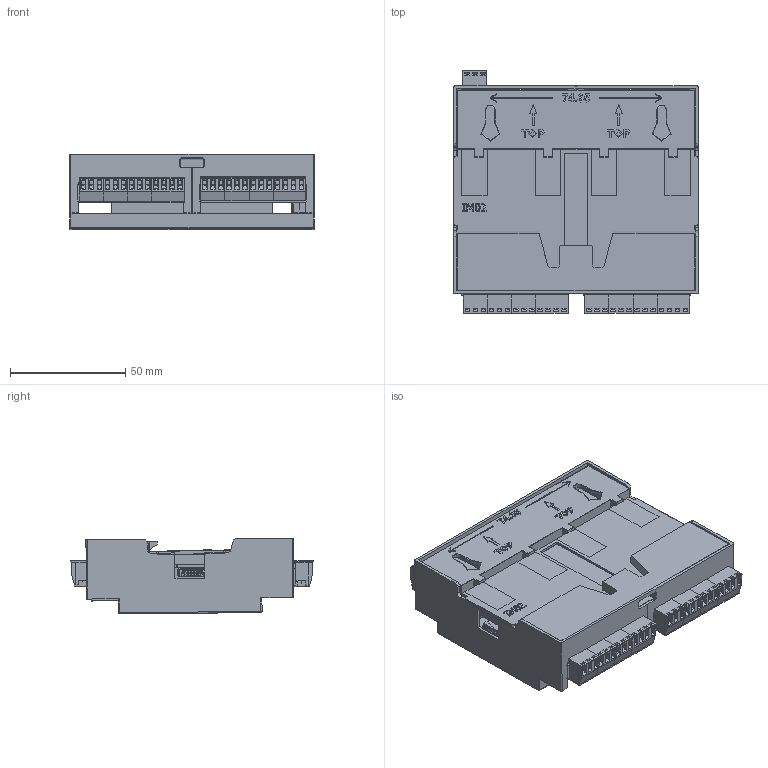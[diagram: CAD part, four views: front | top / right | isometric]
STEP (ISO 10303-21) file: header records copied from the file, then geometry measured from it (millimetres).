
FILE_DESCRIPTION(/* description */ (''),/* implementation_level */ '2;1');
FILE_NAME(/* name */ 'C:\Users\zambolin\Desktop\PRODOTTI\R-PASS\3D\DM00199-0.stp',/* time_stamp */ '2021-12-03T11:12:13+01:00',/* author */ ('zambolin'),/* organization */ (''),/* preprocessor_version */ 'ST-DEVELOPER v18.1',/* originating_system */ 'Autodesk Inventor 2022',/* authorisation */ '');
FILE_SCHEMA (('AUTOMOTIVE_DESIGN { 1 0 10303 214 3 1 1 }'));
Products named in the file (6): 3d; BASE_6M-XT_MODIFICA; CIRCUITO-STAMPATO; coperchio forato; MORSETTO_4VIE; MORSETTO_3VIE
Assembly tree (12 placements, depth 2):
  3d
    BASE_6M-XT_MODIFICA
    CIRCUITO-STAMPATO
    coperchio forato
    MORSETTO_3VIE  x7
    MORSETTO_4VIE  x2
Bounding box: 106.2 x 105.36 x 32.79 mm (x, y, z)
Volume: 54101.9 mm3; surface area: 127065.1 mm2
Topology: 108 solids, 110 shells, 10847 faces, 29650 edges, 19032 vertices
Faces by surface type: plane 7437, cylinder 2397, torus 508, bspline 332, sphere 137, cone 36
Full cylindrical faces by diameter (mm): 0.2 x9, 0.3 x21, 0.33 x23, 0.635 x4, 0.8 x4, 0.9 x32, 0.92 x4, 1 x4, 1.016 x16, 1.1 x2, 1.35 x4, 1.4 x6, 1.5 x29, 1.65 x2, 1.8 x29, 1.9 x87, 2.1 x29, 2.8 x58
Entity records: 253660 total; most frequent: CARTESIAN_POINT 54429, ORIENTED_EDGE 41247, DIRECTION 38784, EDGE_CURVE 20656, LINE 15426, VECTOR 15426, VERTEX_POINT 13142, AXIS2_PLACEMENT_3D 11679
